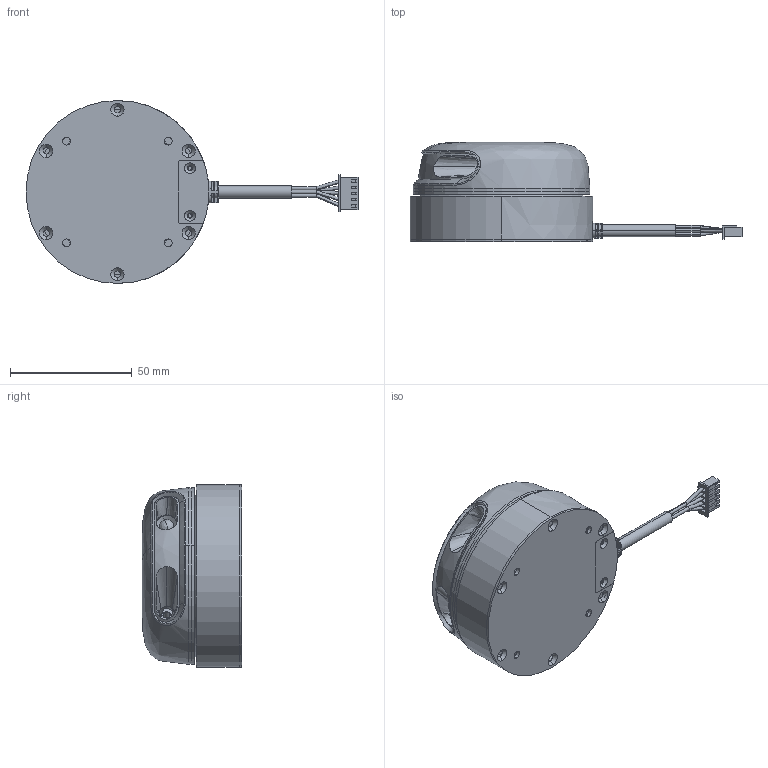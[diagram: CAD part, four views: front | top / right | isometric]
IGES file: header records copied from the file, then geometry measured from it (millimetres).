
Start section: SolidWorks IGES file using analytic representation for surfaces
Bounding box: 136.17 x 40.8 x 75 mm (x, y, z)
Volume: 43538.8 mm3; surface area: 56267.6 mm2
Topology: 25 solids, 25 shells, 980 faces, 5661 edges, 7268 vertices
Faces by surface type: plane 570, revolution 352, bspline 58
